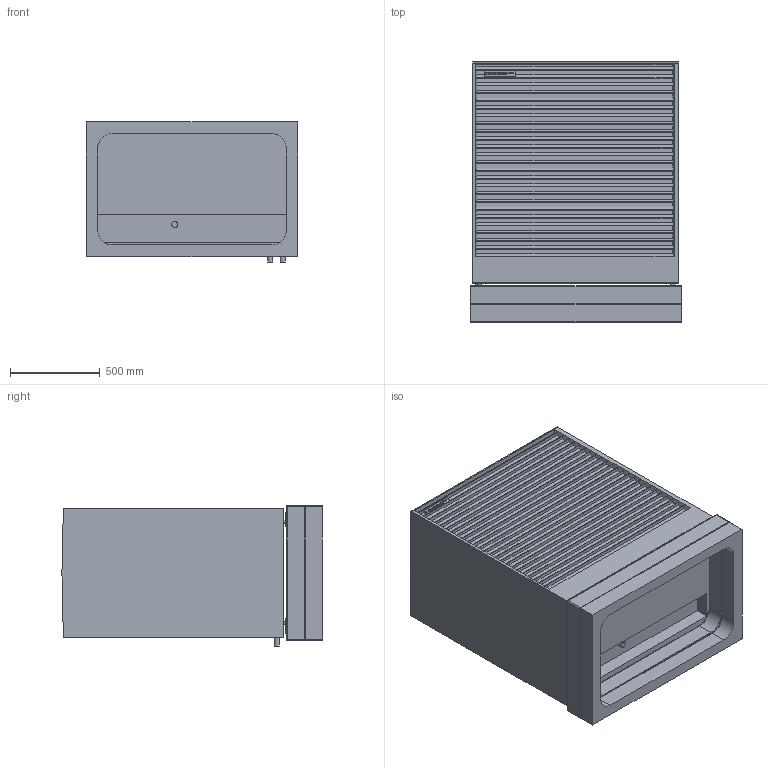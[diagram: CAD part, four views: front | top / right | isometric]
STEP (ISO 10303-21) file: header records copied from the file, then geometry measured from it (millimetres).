
FILE_DESCRIPTION (( 'STEP AP214' ), '1' );
FILE_NAME ('ADAPT 2 M,L_zadnji priklop + betonski temelj.STEP', '2026-03-13T08:29:01', ( '' ), ( '' ), 'SwSTEP 2.0', 'SolidWorks 2024', '' );
FILE_SCHEMA (( 'AUTOMOTIVE_DESIGN' ));
Length unit declared in the file: millimetre
Products named in the file (3): ADAPT 2 M,L_Zadnji priklop; ADAPT 2 M,L_zadnji priklop + betonski temelj; ADAPT 2 (betonski temelj)
Assembly tree (3 placements, depth 2):
  ADAPT 2 M,L_zadnji priklop + betonski temelj
    ADAPT 2 (betonski temelj)  x2
    ADAPT 2 M,L_Zadnji priklop
Bounding box: 1180 x 1449.29 x 781 mm (x, y, z)
Volume: 991157103.3 mm3; surface area: 11277025.9 mm2
Topology: 5 solids, 5 shells, 630 faces, 1683 edges, 1098 vertices
Faces by surface type: plane 489, cylinder 69, bspline 64, sphere 8
Full cylindrical faces by diameter (mm): 10 x8, 13 x4, 19 x4, 28 x2, 34.029 x1
Entity records: 26840 total; most frequent: CARTESIAN_POINT 6432, ORIENTED_EDGE 3124, DIRECTION 2578, EDGE_CURVE 1562, VECTOR 1354, LINE 1354, VERTEX_POINT 1040, EDGE_LOOP 656
